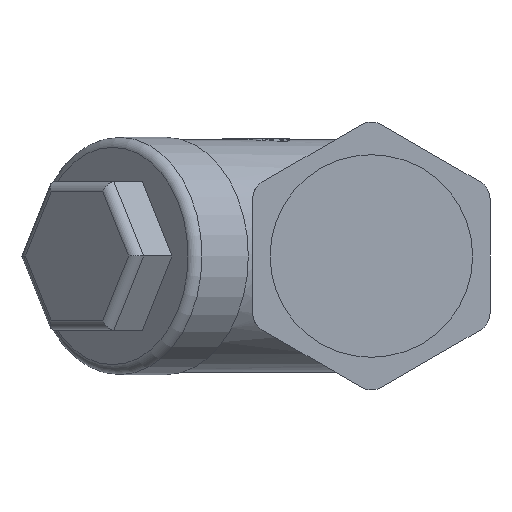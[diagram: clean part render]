
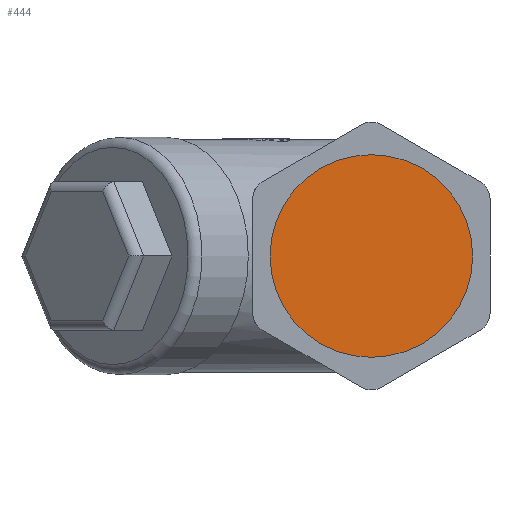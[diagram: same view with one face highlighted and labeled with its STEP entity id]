
A CAD part, left-side view. The second image highlights one B-rep face of the part: STEP entity #444.
In plain terms, the highlighted planar face has unit normal (-1, 0, 0).
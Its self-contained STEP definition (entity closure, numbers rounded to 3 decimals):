
#444=ADVANCED_FACE('',(#8324),#8326,.F.);
#8324=FACE_BOUND('',#8325,.T.);
#8325=EDGE_LOOP('',(#15213));
#8326=PLANE('',#8327);
#8327=AXIS2_PLACEMENT_3D('',#8328,#8329,#8330);
#8328=CARTESIAN_POINT('',(573.333,-127.923,23.5));
#8329=DIRECTION('',(1.,0.,0.));
#8330=DIRECTION('',(0.,0.,-1.));
#15213=ORIENTED_EDGE('',*,*,#20288,.T.);
#20288=EDGE_CURVE('',#23756,#23756,#23757,.T.);
#23756=VERTEX_POINT('',#31146);
#23757=CIRCLE('',#31147,20.5);
#31146=CARTESIAN_POINT('',(573.333,-148.423,23.5));
#31147=AXIS2_PLACEMENT_3D('',#31148,#31149,#31150);
#31148=CARTESIAN_POINT('',(573.333,-127.923,23.5));
#31149=DIRECTION('',(-1.,0.,0.));
#31150=DIRECTION('',(0.,-1.,0.));
